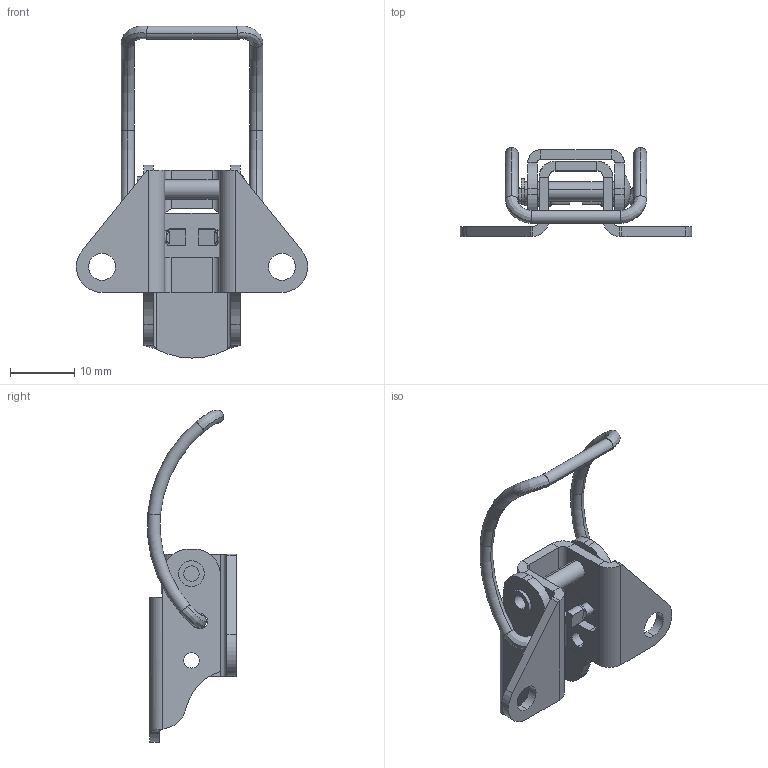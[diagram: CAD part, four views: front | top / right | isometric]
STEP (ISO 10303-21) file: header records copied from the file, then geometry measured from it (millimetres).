
FILE_DESCRIPTION (( 'STEP AP203' ), '1' );
FILE_NAME ('3.ST203.001.STEP', '2023-03-28T13:04:25', ( '' ), ( '' ), 'SwSTEP 2.0', 'SolidWorks 2021', '' );
FILE_SCHEMA (( 'CONFIG_CONTROL_DESIGN' ));
Length unit declared in the file: millimetre
Products named in the file (5): P.027616_00-00 zak; P.028016_00-01; P.028018_00-00 zak; P.028017_00-01; 3.ST203.001
Assembly tree (4 placements, depth 2):
  3.ST203.001
    P.028016_00-01
    P.028017_00-01
    P.027616_00-00 zak
    P.028018_00-00 zak
Bounding box: 36 x 13.83 x 51.66 mm (x, y, z)
Volume: 2481.2 mm3; surface area: 4254.6 mm2
Topology: 4 solids, 4 shells, 184 faces, 453 edges, 278 vertices
Faces by surface type: cylinder 85, plane 69, bspline 20, torus 8, sphere 2
Entity records: 7966 total; most frequent: CARTESIAN_POINT 3178, ORIENTED_EDGE 906, DIRECTION 874, EDGE_CURVE 453, AXIS2_PLACEMENT_3D 331, VERTEX_POINT 278, VECTOR 212, LINE 212
